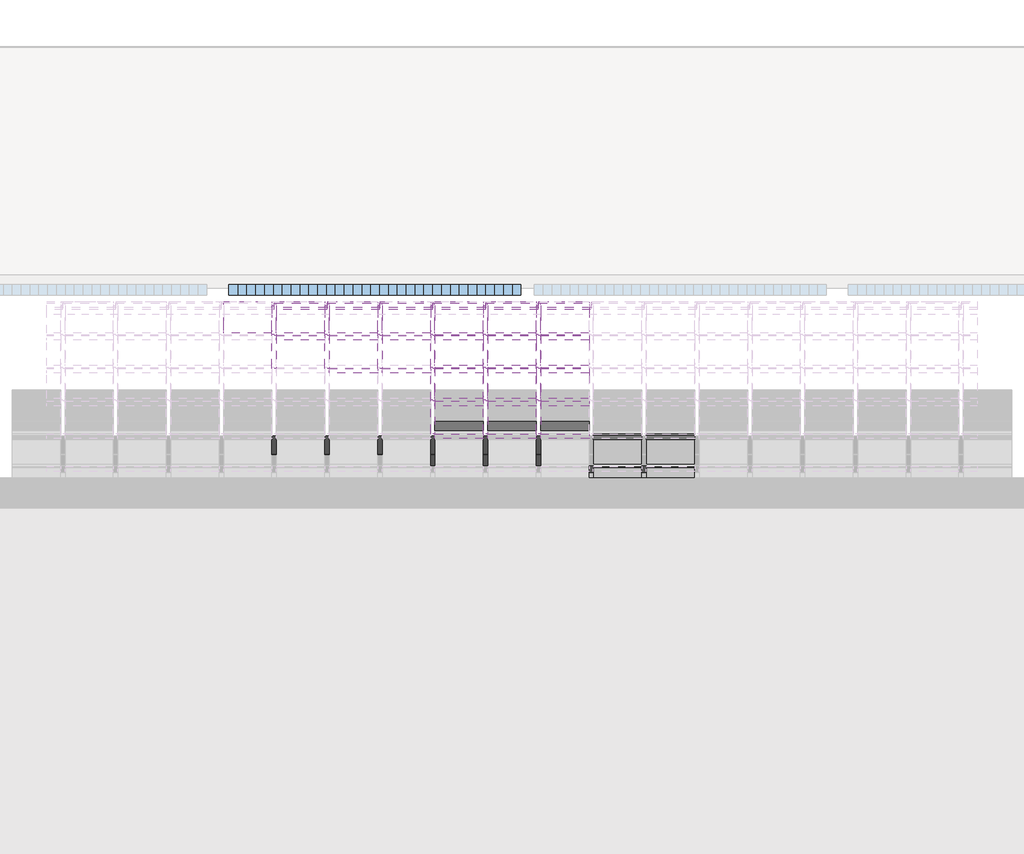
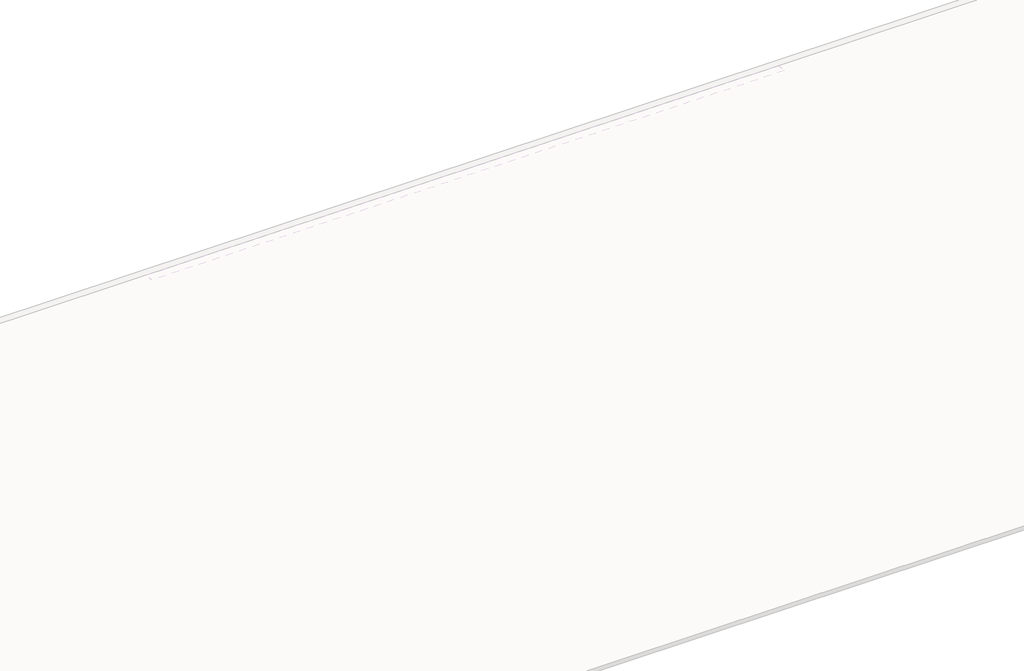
# One storey, part 39 of 57: 92 members, 29 plates, 1 window.
"""IFC4 building model written with IfcOpenShell, lengths in millimetres."""

from ifc_helpers import new_model, si_unit, origin, place, context, project, spatial, transform, mapped, element, save
from components import rectangular_mullion_4c4137b9, rectangular_mullion_59984080, rectangular_mullion_3ac3718c, rectangular_mullion_caibro_df98490b, rectangular_mullion_caibro_e4384bba, rectangular_mullion_caibro_0993a3cf, rectangular_mullion_caibro_650698a1, empty_system_panel_vazio_178faf58, window_60306791, window_6c828501, window_02d14e1e

model = new_model("IFC4")

# Units and contexts
model_context = context("Model", 3, world=origin())
ifc_project = project(units=[si_unit("LENGTHUNIT", "METRE", prefix="MILLI")], contexts=[model_context])

# Site, building, storey
site = spatial("IfcSite", under=ifc_project)
building = spatial("IfcBuilding", under=site)
storey = spatial("IfcBuildingStorey", under=building, Name="Nível 2", Elevation=4100.0)

# Members
placement = place(None, origin())
rectangular_mullion_shape = rectangular_mullion_4c4137b9(model_context)
element("IfcMember", 1, ObjectType="Rectangular Mullion : Ripa", at=placement, inside=storey, context=model_context, shape_type="MappedRepresentation", body=[
    mapped(rectangular_mullion_shape, transform((24439.7613963, 15566.1284427, 5819.8877114), x_axis=(0.0, 0.9578262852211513, 0.2873478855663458), y_axis=(0.0, 0.2873478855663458, -0.9578262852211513), z_axis=(-1.0, 0.0, 0.0))),
])
element("IfcMember", 2, ObjectType="Rectangular Mullion : Ripa", at=placement, inside=storey, context=model_context, shape_type="MappedRepresentation", body=[
    mapped(rectangular_mullion_shape, transform((25036.8161527, 15566.1284427, 5819.8877114), x_axis=(0.0, 0.9578262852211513, 0.2873478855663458), y_axis=(0.0, 0.2873478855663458, -0.9578262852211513), z_axis=(-1.0, 0.0, 0.0))),
])
element("IfcMember", 3, ObjectType="Rectangular Mullion : Ripa", at=placement, inside=storey, context=model_context, shape_type="MappedRepresentation", body=[
    mapped(rectangular_mullion_shape, transform((25633.8709092, 15566.1284427, 5819.8877114), x_axis=(0.0, 0.9578262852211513, 0.2873478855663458), y_axis=(0.0, 0.2873478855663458, -0.9578262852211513), z_axis=(-1.0, 0.0, 0.0))),
])
element("IfcMember", 4, ObjectType="Rectangular Mullion : Ripa", at=placement, inside=storey, context=model_context, shape_type="MappedRepresentation", body=[
    mapped(rectangular_mullion_shape, transform((26230.9256656, 15566.1284427, 5819.8877114), x_axis=(0.0, 0.9578262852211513, 0.2873478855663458), y_axis=(0.0, 0.2873478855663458, -0.9578262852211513), z_axis=(-1.0, 0.0, 0.0))),
])
element("IfcMember", 5, ObjectType="Rectangular Mullion : Ripa", at=placement, inside=storey, context=model_context, shape_type="MappedRepresentation", body=[
    mapped(rectangular_mullion_shape, transform((26827.980422, 15566.1284427, 5819.8877114), x_axis=(0.0, 0.9578262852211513, 0.2873478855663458), y_axis=(0.0, 0.2873478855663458, -0.9578262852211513), z_axis=(-1.0, 0.0, 0.0))),
])
element("IfcMember", 6, ObjectType="Rectangular Mullion : Ripa", at=placement, inside=storey, context=model_context, shape_type="MappedRepresentation", body=[
    mapped(rectangular_mullion_shape, transform((27425.0351784, 15566.1284427, 5819.8877114), x_axis=(0.0, 0.9578262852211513, 0.2873478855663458), y_axis=(0.0, 0.2873478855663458, -0.9578262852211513), z_axis=(-1.0, 0.0, 0.0))),
])
rectangular_mullion_2_shape = rectangular_mullion_59984080(model_context)
element("IfcMember", 7, ObjectType="Rectangular Mullion : Ripa", at=placement, inside=storey, context=model_context, shape_type="MappedRepresentation", body=[
    mapped(rectangular_mullion_2_shape, transform((28047.0899349, 12234.5331147, 4820.409113), x_axis=(0.0, 0.9578262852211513, 0.2873478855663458), y_axis=(0.0, 0.2873478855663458, -0.9578262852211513), z_axis=(-1.0, 0.0, 0.0))),
])
element("IfcMember", 8, ObjectType="Rectangular Mullion : Ripa", at=placement, inside=storey, context=model_context, shape_type="MappedRepresentation", body=[
    mapped(rectangular_mullion_2_shape, transform((28644.1446913, 12234.5331147, 4820.409113), x_axis=(0.0, 0.9578262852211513, 0.2873478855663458), y_axis=(0.0, 0.2873478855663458, -0.9578262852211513), z_axis=(-1.0, 0.0, 0.0))),
])
element("IfcMember", 9, ObjectType="Rectangular Mullion : Ripa", at=placement, inside=storey, context=model_context, shape_type="MappedRepresentation", body=[
    mapped(rectangular_mullion_2_shape, transform((29241.1994477, 12234.5331147, 4820.409113), x_axis=(0.0, 0.9578262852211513, 0.2873478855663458), y_axis=(0.0, 0.2873478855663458, -0.9578262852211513), z_axis=(-1.0, 0.0, 0.0))),
])
element("IfcMember", 10, ObjectType="Rectangular Mullion : Ripa", at=placement, inside=storey, context=model_context, shape_type="MappedRepresentation", body=[
    mapped(rectangular_mullion_2_shape, transform((29838.2542041, 12234.5331147, 4820.409113), x_axis=(0.0, 0.9578262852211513, 0.2873478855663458), y_axis=(0.0, 0.2873478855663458, -0.9578262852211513), z_axis=(-1.0, 0.0, 0.0))),
])
element("IfcMember", 11, ObjectType="Rectangular Mullion : Ripa", at=placement, inside=storey, context=model_context, shape_type="MappedRepresentation", body=[
    mapped(rectangular_mullion_2_shape, transform((28047.0899349, 12604.7103734, 4931.4622906), x_axis=(0.0, 0.9578262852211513, 0.2873478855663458), y_axis=(0.0, 0.2873478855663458, -0.9578262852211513), z_axis=(-1.0, 0.0, 0.0))),
])
element("IfcMember", 12, ObjectType="Rectangular Mullion : Ripa", at=placement, inside=storey, context=model_context, shape_type="MappedRepresentation", body=[
    mapped(rectangular_mullion_2_shape, transform((28644.1446913, 12604.7103734, 4931.4622906), x_axis=(0.0, 0.9578262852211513, 0.2873478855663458), y_axis=(0.0, 0.2873478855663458, -0.9578262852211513), z_axis=(-1.0, 0.0, 0.0))),
])
element("IfcMember", 13, ObjectType="Rectangular Mullion : Ripa", at=placement, inside=storey, context=model_context, shape_type="MappedRepresentation", body=[
    mapped(rectangular_mullion_2_shape, transform((29241.1994477, 12604.7103734, 4931.4622906), x_axis=(0.0, 0.9578262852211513, 0.2873478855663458), y_axis=(0.0, 0.2873478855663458, -0.9578262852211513), z_axis=(-1.0, 0.0, 0.0))),
])
element("IfcMember", 14, ObjectType="Rectangular Mullion : Ripa", at=placement, inside=storey, context=model_context, shape_type="MappedRepresentation", body=[
    mapped(rectangular_mullion_2_shape, transform((29838.2542041, 12604.7103734, 4931.4622906), x_axis=(0.0, 0.9578262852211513, 0.2873478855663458), y_axis=(0.0, 0.2873478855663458, -0.9578262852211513), z_axis=(-1.0, 0.0, 0.0))),
])
element("IfcMember", 15, ObjectType="Rectangular Mullion : Ripa", at=placement, inside=storey, context=model_context, shape_type="MappedRepresentation", body=[
    mapped(rectangular_mullion_2_shape, transform((28047.0899349, 12974.8876321, 5042.5154682), x_axis=(0.0, 0.9578262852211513, 0.2873478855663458), y_axis=(0.0, 0.2873478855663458, -0.9578262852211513), z_axis=(-1.0, 0.0, 0.0))),
])
element("IfcMember", 16, ObjectType="Rectangular Mullion : Ripa", at=placement, inside=storey, context=model_context, shape_type="MappedRepresentation", body=[
    mapped(rectangular_mullion_2_shape, transform((28644.1446913, 12974.8876321, 5042.5154682), x_axis=(0.0, 0.9578262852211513, 0.2873478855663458), y_axis=(0.0, 0.2873478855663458, -0.9578262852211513), z_axis=(-1.0, 0.0, 0.0))),
])
element("IfcMember", 17, ObjectType="Rectangular Mullion : Ripa", at=placement, inside=storey, context=model_context, shape_type="MappedRepresentation", body=[
    mapped(rectangular_mullion_2_shape, transform((29241.1994477, 12974.8876321, 5042.5154682), x_axis=(0.0, 0.9578262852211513, 0.2873478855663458), y_axis=(0.0, 0.2873478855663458, -0.9578262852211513), z_axis=(-1.0, 0.0, 0.0))),
])
element("IfcMember", 18, ObjectType="Rectangular Mullion : Ripa", at=placement, inside=storey, context=model_context, shape_type="MappedRepresentation", body=[
    mapped(rectangular_mullion_2_shape, transform((29838.2542041, 12974.8876321, 5042.5154682), x_axis=(0.0, 0.9578262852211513, 0.2873478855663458), y_axis=(0.0, 0.2873478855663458, -0.9578262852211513), z_axis=(-1.0, 0.0, 0.0))),
])
element("IfcMember", 19, ObjectType="Rectangular Mullion : Ripa", at=placement, inside=storey, context=model_context, shape_type="MappedRepresentation", body=[
    mapped(rectangular_mullion_2_shape, transform((28047.0899349, 13345.0648907, 5153.5686458), x_axis=(0.0, 0.9578262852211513, 0.2873478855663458), y_axis=(0.0, 0.2873478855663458, -0.9578262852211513), z_axis=(-1.0, 0.0, 0.0))),
])
element("IfcMember", 20, ObjectType="Rectangular Mullion : Ripa", at=placement, inside=storey, context=model_context, shape_type="MappedRepresentation", body=[
    mapped(rectangular_mullion_2_shape, transform((28644.1446913, 13345.0648907, 5153.5686458), x_axis=(0.0, 0.9578262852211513, 0.2873478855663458), y_axis=(0.0, 0.2873478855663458, -0.9578262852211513), z_axis=(-1.0, 0.0, 0.0))),
])
element("IfcMember", 21, ObjectType="Rectangular Mullion : Ripa", at=placement, inside=storey, context=model_context, shape_type="MappedRepresentation", body=[
    mapped(rectangular_mullion_2_shape, transform((26255.9256656, 14085.4194081, 5375.675001), x_axis=(0.0, 0.9578262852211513, 0.2873478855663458), y_axis=(0.0, 0.2873478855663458, -0.9578262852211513), z_axis=(-1.0, 0.0, 0.0))),
])
element("IfcMember", 22, ObjectType="Rectangular Mullion : Ripa", at=placement, inside=storey, context=model_context, shape_type="MappedRepresentation", body=[
    mapped(rectangular_mullion_2_shape, transform((26852.980422, 14085.4194081, 5375.675001), x_axis=(0.0, 0.9578262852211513, 0.2873478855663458), y_axis=(0.0, 0.2873478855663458, -0.9578262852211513), z_axis=(-1.0, 0.0, 0.0))),
])
element("IfcMember", 23, ObjectType="Rectangular Mullion : Ripa", at=placement, inside=storey, context=model_context, shape_type="MappedRepresentation", body=[
    mapped(rectangular_mullion_2_shape, transform((27450.0351784, 14085.4194081, 5375.675001), x_axis=(0.0, 0.9578262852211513, 0.2873478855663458), y_axis=(0.0, 0.2873478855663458, -0.9578262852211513), z_axis=(-1.0, 0.0, 0.0))),
])
element("IfcMember", 24, ObjectType="Rectangular Mullion : Ripa", at=placement, inside=storey, context=model_context, shape_type="MappedRepresentation", body=[
    mapped(rectangular_mullion_2_shape, transform((26255.9256656, 14455.5966667, 5486.7281786), x_axis=(0.0, 0.9578262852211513, 0.2873478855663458), y_axis=(0.0, 0.2873478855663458, -0.9578262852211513), z_axis=(-1.0, 0.0, 0.0))),
])
element("IfcMember", 25, ObjectType="Rectangular Mullion : Ripa", at=placement, inside=storey, context=model_context, shape_type="MappedRepresentation", body=[
    mapped(rectangular_mullion_2_shape, transform((26852.980422, 14455.5966667, 5486.7281786), x_axis=(0.0, 0.9578262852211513, 0.2873478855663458), y_axis=(0.0, 0.2873478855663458, -0.9578262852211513), z_axis=(-1.0, 0.0, 0.0))),
])
element("IfcMember", 26, ObjectType="Rectangular Mullion : Ripa", at=placement, inside=storey, context=model_context, shape_type="MappedRepresentation", body=[
    mapped(rectangular_mullion_2_shape, transform((27450.0351784, 14455.5966667, 5486.7281786), x_axis=(0.0, 0.9578262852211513, 0.2873478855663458), y_axis=(0.0, 0.2873478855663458, -0.9578262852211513), z_axis=(-1.0, 0.0, 0.0))),
])
element("IfcMember", 27, ObjectType="Rectangular Mullion : Ripa", at=placement, inside=storey, context=model_context, shape_type="MappedRepresentation", body=[
    mapped(rectangular_mullion_2_shape, transform((25061.8161527, 14825.7739254, 5597.7813562), x_axis=(0.0, 0.9578262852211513, 0.2873478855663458), y_axis=(0.0, 0.2873478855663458, -0.9578262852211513), z_axis=(-1.0, 0.0, 0.0))),
])
element("IfcMember", 28, ObjectType="Rectangular Mullion : Ripa", at=placement, inside=storey, context=model_context, shape_type="MappedRepresentation", body=[
    mapped(rectangular_mullion_2_shape, transform((25658.8709092, 14825.7739254, 5597.7813562), x_axis=(0.0, 0.9578262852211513, 0.2873478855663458), y_axis=(0.0, 0.2873478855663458, -0.9578262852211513), z_axis=(-1.0, 0.0, 0.0))),
])
element("IfcMember", 29, ObjectType="Rectangular Mullion : Ripa", at=placement, inside=storey, context=model_context, shape_type="MappedRepresentation", body=[
    mapped(rectangular_mullion_2_shape, transform((26255.9256656, 14825.7739254, 5597.7813562), x_axis=(0.0, 0.9578262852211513, 0.2873478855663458), y_axis=(0.0, 0.2873478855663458, -0.9578262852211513), z_axis=(-1.0, 0.0, 0.0))),
])
element("IfcMember", 30, ObjectType="Rectangular Mullion : Ripa", at=placement, inside=storey, context=model_context, shape_type="MappedRepresentation", body=[
    mapped(rectangular_mullion_2_shape, transform((26852.980422, 14825.7739254, 5597.7813562), x_axis=(0.0, 0.9578262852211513, 0.2873478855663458), y_axis=(0.0, 0.2873478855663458, -0.9578262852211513), z_axis=(-1.0, 0.0, 0.0))),
])
element("IfcMember", 31, ObjectType="Rectangular Mullion : Ripa", at=placement, inside=storey, context=model_context, shape_type="MappedRepresentation", body=[
    mapped(rectangular_mullion_2_shape, transform((27450.0351784, 14825.7739254, 5597.7813562), x_axis=(0.0, 0.9578262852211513, 0.2873478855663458), y_axis=(0.0, 0.2873478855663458, -0.9578262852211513), z_axis=(-1.0, 0.0, 0.0))),
])
element("IfcMember", 32, ObjectType="Rectangular Mullion : Ripa", at=placement, inside=storey, context=model_context, shape_type="MappedRepresentation", body=[
    mapped(rectangular_mullion_2_shape, transform((24464.7613963, 15195.9511841, 5708.8345338), x_axis=(0.0, 0.9578262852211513, 0.2873478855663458), y_axis=(0.0, 0.2873478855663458, -0.9578262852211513), z_axis=(-1.0, 0.0, 0.0))),
])
element("IfcMember", 33, ObjectType="Rectangular Mullion : Ripa", at=placement, inside=storey, context=model_context, shape_type="MappedRepresentation", body=[
    mapped(rectangular_mullion_2_shape, transform((25061.8161527, 15195.9511841, 5708.8345338), x_axis=(0.0, 0.9578262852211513, 0.2873478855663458), y_axis=(0.0, 0.2873478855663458, -0.9578262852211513), z_axis=(-1.0, 0.0, 0.0))),
])
element("IfcMember", 34, ObjectType="Rectangular Mullion : Ripa", at=placement, inside=storey, context=model_context, shape_type="MappedRepresentation", body=[
    mapped(rectangular_mullion_2_shape, transform((25658.8709092, 15195.9511841, 5708.8345338), x_axis=(0.0, 0.9578262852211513, 0.2873478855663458), y_axis=(0.0, 0.2873478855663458, -0.9578262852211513), z_axis=(-1.0, 0.0, 0.0))),
])
element("IfcMember", 35, ObjectType="Rectangular Mullion : Ripa", at=placement, inside=storey, context=model_context, shape_type="MappedRepresentation", body=[
    mapped(rectangular_mullion_2_shape, transform((26255.9256656, 15195.9511841, 5708.8345338), x_axis=(0.0, 0.9578262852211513, 0.2873478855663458), y_axis=(0.0, 0.2873478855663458, -0.9578262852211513), z_axis=(-1.0, 0.0, 0.0))),
])
element("IfcMember", 36, ObjectType="Rectangular Mullion : Ripa", at=placement, inside=storey, context=model_context, shape_type="MappedRepresentation", body=[
    mapped(rectangular_mullion_2_shape, transform((26852.980422, 15195.9511841, 5708.8345338), x_axis=(0.0, 0.9578262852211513, 0.2873478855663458), y_axis=(0.0, 0.2873478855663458, -0.9578262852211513), z_axis=(-1.0, 0.0, 0.0))),
])
element("IfcMember", 37, ObjectType="Rectangular Mullion : Ripa", at=placement, inside=storey, context=model_context, shape_type="MappedRepresentation", body=[
    mapped(rectangular_mullion_2_shape, transform((27450.0351784, 15195.9511841, 5708.8345338), x_axis=(0.0, 0.9578262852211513, 0.2873478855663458), y_axis=(0.0, 0.2873478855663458, -0.9578262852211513), z_axis=(-1.0, 0.0, 0.0))),
])
rectangular_mullion_3_shape = rectangular_mullion_3ac3718c(model_context)
element("IfcMember", 38, ObjectType="Rectangular Mullion : Terça", at=placement, inside=storey, context=model_context, shape_type="MappedRepresentation", body=[
    mapped(rectangular_mullion_3_shape, transform((24439.7613963, 15566.1284427, 5757.2458723), x_axis=(0.0, 0.9578262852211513, 0.2873478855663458), y_axis=(0.0, 0.2873478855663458, -0.9578262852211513), z_axis=(-1.0, 0.0, 0.0))),
])
element("IfcMember", 39, ObjectType="Rectangular Mullion : Terça", at=placement, inside=storey, context=model_context, shape_type="MappedRepresentation", body=[
    mapped(rectangular_mullion_3_shape, transform((25036.8161527, 15566.1284427, 5757.2458723), x_axis=(0.0, 0.9578262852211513, 0.2873478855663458), y_axis=(0.0, 0.2873478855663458, -0.9578262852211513), z_axis=(-1.0, 0.0, 0.0))),
])
element("IfcMember", 40, ObjectType="Rectangular Mullion : Terça", at=placement, inside=storey, context=model_context, shape_type="MappedRepresentation", body=[
    mapped(rectangular_mullion_3_shape, transform((25633.8709092, 15566.1284427, 5757.2458723), x_axis=(0.0, 0.9578262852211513, 0.2873478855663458), y_axis=(0.0, 0.2873478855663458, -0.9578262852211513), z_axis=(-1.0, 0.0, 0.0))),
])
element("IfcMember", 41, ObjectType="Rectangular Mullion : Terça", at=placement, inside=storey, context=model_context, shape_type="MappedRepresentation", body=[
    mapped(rectangular_mullion_3_shape, transform((26230.9256656, 15566.1284427, 5757.2458723), x_axis=(0.0, 0.9578262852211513, 0.2873478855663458), y_axis=(0.0, 0.2873478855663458, -0.9578262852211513), z_axis=(-1.0, 0.0, 0.0))),
])
element("IfcMember", 42, ObjectType="Rectangular Mullion : Terça", at=placement, inside=storey, context=model_context, shape_type="MappedRepresentation", body=[
    mapped(rectangular_mullion_3_shape, transform((26827.980422, 15566.1284427, 5757.2458723), x_axis=(0.0, 0.9578262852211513, 0.2873478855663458), y_axis=(0.0, 0.2873478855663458, -0.9578262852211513), z_axis=(-1.0, 0.0, 0.0))),
])
element("IfcMember", 43, ObjectType="Rectangular Mullion : Terça", at=placement, inside=storey, context=model_context, shape_type="MappedRepresentation", body=[
    mapped(rectangular_mullion_3_shape, transform((27425.0351784, 15566.1284427, 5757.2458723), x_axis=(0.0, 0.9578262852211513, 0.2873478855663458), y_axis=(0.0, 0.2873478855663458, -0.9578262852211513), z_axis=(-1.0, 0.0, 0.0))),
])
rectangular_mullion_caibro_shape = rectangular_mullion_caibro_df98490b(model_context)
element("IfcMember", 44, ObjectType="Rectangular Mullion : Caibro", at=placement, inside=storey, context=model_context, shape_type="MappedRepresentation", body=[
    mapped(rectangular_mullion_caibro_shape, transform((24439.7613963, 15518.2371285, 5805.5203171), x_axis=(1.0, 0.0, 0.0), y_axis=(0.0, 0.28734788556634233, -0.9578262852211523), z_axis=(0.0, 0.9578262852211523, 0.28734788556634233))),
])
element("IfcMember", 45, ObjectType="Rectangular Mullion : Caibro", at=placement, inside=storey, context=model_context, shape_type="MappedRepresentation", body=[
    mapped(rectangular_mullion_caibro_shape, transform((25036.8161527, 15518.2371285, 5805.5203171), x_axis=(1.0, 0.0, 0.0), y_axis=(0.0, 0.28734788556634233, -0.9578262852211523), z_axis=(0.0, 0.9578262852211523, 0.28734788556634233))),
])
element("IfcMember", 46, ObjectType="Rectangular Mullion : Caibro", at=placement, inside=storey, context=model_context, shape_type="MappedRepresentation", body=[
    mapped(rectangular_mullion_caibro_shape, transform((25633.8709092, 15518.2371285, 5805.5203171), x_axis=(1.0, 0.0, 0.0), y_axis=(0.0, 0.28734788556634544, -0.9578262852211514), z_axis=(0.0, 0.9578262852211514, 0.28734788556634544))),
])
element("IfcMember", 47, ObjectType="Rectangular Mullion : Caibro", at=placement, inside=storey, context=model_context, shape_type="MappedRepresentation", body=[
    mapped(rectangular_mullion_caibro_shape, transform((26230.9256656, 15518.2371285, 5805.5203171), x_axis=(1.0, 0.0, 0.0), y_axis=(0.0, 0.28734788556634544, -0.9578262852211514), z_axis=(0.0, 0.9578262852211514, 0.28734788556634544))),
])
element("IfcMember", 48, ObjectType="Rectangular Mullion : Caibro", at=placement, inside=storey, context=model_context, shape_type="MappedRepresentation", body=[
    mapped(rectangular_mullion_caibro_shape, transform((26827.980422, 15518.2371285, 5805.5203171), x_axis=(1.0, 0.0, 0.0), y_axis=(0.0, 0.28734788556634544, -0.9578262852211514), z_axis=(0.0, 0.9578262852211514, 0.28734788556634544))),
])
element("IfcMember", 49, ObjectType="Rectangular Mullion : Caibro", at=placement, inside=storey, context=model_context, shape_type="MappedRepresentation", body=[
    mapped(rectangular_mullion_caibro_shape, transform((27425.0351784, 15518.2371285, 5805.5203171), x_axis=(1.0, 0.0, 0.0), y_axis=(0.0, 0.28734788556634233, -0.9578262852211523), z_axis=(0.0, 0.9578262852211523, 0.28734788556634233))),
])
rectangular_mullion_caibro_2_shape = rectangular_mullion_caibro_e4384bba(model_context)
element("IfcMember", 50, ObjectType="Rectangular Mullion : Caibro", at=placement, inside=storey, context=model_context, shape_type="MappedRepresentation", body=[
    mapped(rectangular_mullion_caibro_2_shape, transform((24439.7613963, 15195.9511841, 5708.8345338), x_axis=(1.0, 0.0, 0.0), y_axis=(0.0, 0.2873478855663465, -0.9578262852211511), z_axis=(0.0, 0.957826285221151, 0.28734788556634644))),
])
element("IfcMember", 51, ObjectType="Rectangular Mullion : Caibro", at=placement, inside=storey, context=model_context, shape_type="MappedRepresentation", body=[
    mapped(rectangular_mullion_caibro_2_shape, transform((25036.8161527, 15195.9511841, 5708.8345338), x_axis=(1.0, 0.0, 0.0), y_axis=(0.0, 0.2873478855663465, -0.9578262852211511), z_axis=(0.0, 0.957826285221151, 0.28734788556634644))),
])
element("IfcMember", 52, ObjectType="Rectangular Mullion : Caibro", at=placement, inside=storey, context=model_context, shape_type="MappedRepresentation", body=[
    mapped(rectangular_mullion_caibro_2_shape, transform((25633.8709092, 15195.9511841, 5708.8345338), x_axis=(1.0, 0.0, 0.0), y_axis=(0.0, 0.28734788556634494, -0.9578262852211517), z_axis=(0.0, 0.9578262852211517, 0.28734788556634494))),
])
element("IfcMember", 53, ObjectType="Rectangular Mullion : Caibro", at=placement, inside=storey, context=model_context, shape_type="MappedRepresentation", body=[
    mapped(rectangular_mullion_caibro_2_shape, transform((26230.9256656, 14085.4194081, 5375.675001), x_axis=(1.0, 0.0, 0.0), y_axis=(0.0, 0.28734788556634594, -0.9578262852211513), z_axis=(0.0, 0.9578262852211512, 0.2873478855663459))),
])
element("IfcMember", 54, ObjectType="Rectangular Mullion : Caibro", at=placement, inside=storey, context=model_context, shape_type="MappedRepresentation", body=[
    mapped(rectangular_mullion_caibro_2_shape, transform((26230.9256656, 14455.5966667, 5486.7281786), x_axis=(1.0, 0.0, 0.0), y_axis=(0.0, 0.2873478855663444, -0.9578262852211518), z_axis=(0.0, 0.9578262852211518, 0.2873478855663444))),
])
element("IfcMember", 55, ObjectType="Rectangular Mullion : Caibro", at=placement, inside=storey, context=model_context, shape_type="MappedRepresentation", body=[
    mapped(rectangular_mullion_caibro_2_shape, transform((26230.9256656, 14825.7739254, 5597.7813562), x_axis=(1.0, 0.0, 0.0), y_axis=(0.0, 0.287347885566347, -0.9578262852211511), z_axis=(0.0, 0.9578262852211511, 0.287347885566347))),
])
element("IfcMember", 56, ObjectType="Rectangular Mullion : Caibro", at=placement, inside=storey, context=model_context, shape_type="MappedRepresentation", body=[
    mapped(rectangular_mullion_caibro_2_shape, transform((26230.9256656, 15195.9511841, 5708.8345338), x_axis=(1.0, 0.0, 0.0), y_axis=(0.0, 0.28734788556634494, -0.9578262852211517), z_axis=(0.0, 0.9578262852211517, 0.28734788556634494))),
])
element("IfcMember", 57, ObjectType="Rectangular Mullion : Caibro", at=placement, inside=storey, context=model_context, shape_type="MappedRepresentation", body=[
    mapped(rectangular_mullion_caibro_2_shape, transform((26827.980422, 14085.4194081, 5375.675001), x_axis=(1.0, 0.0, 0.0), y_axis=(0.0, 0.28734788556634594, -0.9578262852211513), z_axis=(0.0, 0.9578262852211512, 0.2873478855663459))),
])
element("IfcMember", 58, ObjectType="Rectangular Mullion : Caibro", at=placement, inside=storey, context=model_context, shape_type="MappedRepresentation", body=[
    mapped(rectangular_mullion_caibro_2_shape, transform((26827.980422, 14455.5966667, 5486.7281786), x_axis=(1.0, 0.0, 0.0), y_axis=(0.0, 0.2873478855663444, -0.9578262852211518), z_axis=(0.0, 0.9578262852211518, 0.2873478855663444))),
])
element("IfcMember", 59, ObjectType="Rectangular Mullion : Caibro", at=placement, inside=storey, context=model_context, shape_type="MappedRepresentation", body=[
    mapped(rectangular_mullion_caibro_2_shape, transform((26827.980422, 14825.7739254, 5597.7813562), x_axis=(1.0, 0.0, 0.0), y_axis=(0.0, 0.287347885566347, -0.9578262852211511), z_axis=(0.0, 0.9578262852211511, 0.287347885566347))),
])
element("IfcMember", 60, ObjectType="Rectangular Mullion : Caibro", at=placement, inside=storey, context=model_context, shape_type="MappedRepresentation", body=[
    mapped(rectangular_mullion_caibro_2_shape, transform((26827.980422, 15195.9511841, 5708.8345338), x_axis=(1.0, 0.0, 0.0), y_axis=(0.0, 0.28734788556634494, -0.9578262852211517), z_axis=(0.0, 0.9578262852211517, 0.28734788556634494))),
])
element("IfcMember", 61, ObjectType="Rectangular Mullion : Caibro", at=placement, inside=storey, context=model_context, shape_type="MappedRepresentation", body=[
    mapped(rectangular_mullion_caibro_2_shape, transform((27425.0351784, 14085.4194081, 5375.675001), x_axis=(1.0, 0.0, 0.0), y_axis=(0.0, 0.2873478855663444, -0.9578262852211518), z_axis=(0.0, 0.9578262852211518, 0.2873478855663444))),
])
element("IfcMember", 62, ObjectType="Rectangular Mullion : Caibro", at=placement, inside=storey, context=model_context, shape_type="MappedRepresentation", body=[
    mapped(rectangular_mullion_caibro_2_shape, transform((27425.0351784, 14455.5966667, 5486.7281786), x_axis=(1.0, 0.0, 0.0), y_axis=(0.0, 0.28734788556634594, -0.9578262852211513), z_axis=(0.0, 0.9578262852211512, 0.2873478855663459))),
])
element("IfcMember", 63, ObjectType="Rectangular Mullion : Caibro", at=placement, inside=storey, context=model_context, shape_type="MappedRepresentation", body=[
    mapped(rectangular_mullion_caibro_2_shape, transform((27425.0351784, 14825.7739254, 5597.7813562), x_axis=(1.0, 0.0, 0.0), y_axis=(0.0, 0.28734788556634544, -0.9578262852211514), z_axis=(0.0, 0.9578262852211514, 0.28734788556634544))),
])
element("IfcMember", 64, ObjectType="Rectangular Mullion : Caibro", at=placement, inside=storey, context=model_context, shape_type="MappedRepresentation", body=[
    mapped(rectangular_mullion_caibro_2_shape, transform((27425.0351784, 15195.9511841, 5708.8345338), x_axis=(1.0, 0.0, 0.0), y_axis=(0.0, 0.2873478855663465, -0.9578262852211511), z_axis=(0.0, 0.957826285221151, 0.28734788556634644))),
])
element("IfcMember", 65, ObjectType="Rectangular Mullion : Caibro", at=placement, inside=storey, context=model_context, shape_type="MappedRepresentation", body=[
    mapped(rectangular_mullion_caibro_2_shape, transform((28022.0899349, 12234.5331147, 4820.409113), x_axis=(1.0, 0.0, 0.0), y_axis=(0.0, 0.2873478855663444, -0.9578262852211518), z_axis=(0.0, 0.9578262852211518, 0.2873478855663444))),
])
element("IfcMember", 66, ObjectType="Rectangular Mullion : Caibro", at=placement, inside=storey, context=model_context, shape_type="MappedRepresentation", body=[
    mapped(rectangular_mullion_caibro_2_shape, transform((28022.0899349, 12604.7103734, 4931.4622906), x_axis=(1.0, 0.0, 0.0), y_axis=(0.0, 0.2873478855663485, -0.9578262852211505), z_axis=(0.0, 0.9578262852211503, 0.28734788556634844))),
])
element("IfcMember", 67, ObjectType="Rectangular Mullion : Caibro", at=placement, inside=storey, context=model_context, shape_type="MappedRepresentation", body=[
    mapped(rectangular_mullion_caibro_2_shape, transform((28022.0899349, 12974.8876321, 5042.5154682), x_axis=(1.0, 0.0, 0.0), y_axis=(0.0, 0.2873478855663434, -0.957826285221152), z_axis=(0.0, 0.957826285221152, 0.2873478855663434))),
])
element("IfcMember", 68, ObjectType="Rectangular Mullion : Caibro", at=placement, inside=storey, context=model_context, shape_type="MappedRepresentation", body=[
    mapped(rectangular_mullion_caibro_2_shape, transform((28022.0899349, 13345.0648907, 5153.5686458), x_axis=(1.0, 0.0, 0.0), y_axis=(0.0, 0.28734788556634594, -0.9578262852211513), z_axis=(0.0, 0.9578262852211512, 0.2873478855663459))),
])
element("IfcMember", 69, ObjectType="Rectangular Mullion : Caibro", at=placement, inside=storey, context=model_context, shape_type="MappedRepresentation", body=[
    mapped(rectangular_mullion_caibro_2_shape, transform((28022.0899349, 13715.2421494, 5264.6218234), x_axis=(1.0, 0.0, 0.0), y_axis=(0.0, 0.28734788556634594, -0.9578262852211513), z_axis=(0.0, 0.9578262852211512, 0.2873478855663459))),
])
element("IfcMember", 70, ObjectType="Rectangular Mullion : Caibro", at=placement, inside=storey, context=model_context, shape_type="MappedRepresentation", body=[
    mapped(rectangular_mullion_caibro_2_shape, transform((28619.1446913, 12234.5331147, 4820.409113), x_axis=(1.0, 0.0, 0.0), y_axis=(0.0, 0.2873478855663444, -0.9578262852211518), z_axis=(0.0, 0.9578262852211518, 0.2873478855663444))),
])
element("IfcMember", 71, ObjectType="Rectangular Mullion : Caibro", at=placement, inside=storey, context=model_context, shape_type="MappedRepresentation", body=[
    mapped(rectangular_mullion_caibro_2_shape, transform((28619.1446913, 12604.7103734, 4931.4622906), x_axis=(1.0, 0.0, 0.0), y_axis=(0.0, 0.2873478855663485, -0.9578262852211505), z_axis=(0.0, 0.9578262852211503, 0.28734788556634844))),
])
element("IfcMember", 72, ObjectType="Rectangular Mullion : Caibro", at=placement, inside=storey, context=model_context, shape_type="MappedRepresentation", body=[
    mapped(rectangular_mullion_caibro_2_shape, transform((28619.1446913, 12974.8876321, 5042.5154682), x_axis=(1.0, 0.0, 0.0), y_axis=(0.0, 0.2873478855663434, -0.957826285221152), z_axis=(0.0, 0.957826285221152, 0.2873478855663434))),
])
element("IfcMember", 73, ObjectType="Rectangular Mullion : Caibro", at=placement, inside=storey, context=model_context, shape_type="MappedRepresentation", body=[
    mapped(rectangular_mullion_caibro_2_shape, transform((28619.1446913, 13345.0648907, 5153.5686458), x_axis=(1.0, 0.0, 0.0), y_axis=(0.0, 0.28734788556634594, -0.9578262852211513), z_axis=(0.0, 0.9578262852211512, 0.2873478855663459))),
])
element("IfcMember", 74, ObjectType="Rectangular Mullion : Caibro", at=placement, inside=storey, context=model_context, shape_type="MappedRepresentation", body=[
    mapped(rectangular_mullion_caibro_2_shape, transform((28619.1446913, 13715.2421494, 5264.6218234), x_axis=(1.0, 0.0, 0.0), y_axis=(0.0, 0.28734788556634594, -0.9578262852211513), z_axis=(0.0, 0.9578262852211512, 0.2873478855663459))),
])
element("IfcMember", 75, ObjectType="Rectangular Mullion : Caibro", at=placement, inside=storey, context=model_context, shape_type="MappedRepresentation", body=[
    mapped(rectangular_mullion_caibro_2_shape, transform((29216.1994477, 12234.5331147, 4820.409113), x_axis=(1.0, 0.0, 0.0), y_axis=(0.0, 0.2873478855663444, -0.9578262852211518), z_axis=(0.0, 0.9578262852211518, 0.2873478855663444))),
])
element("IfcMember", 76, ObjectType="Rectangular Mullion : Caibro", at=placement, inside=storey, context=model_context, shape_type="MappedRepresentation", body=[
    mapped(rectangular_mullion_caibro_2_shape, transform((29216.1994477, 12604.7103734, 4931.4622906), x_axis=(1.0, 0.0, 0.0), y_axis=(0.0, 0.2873478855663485, -0.9578262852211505), z_axis=(0.0, 0.9578262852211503, 0.28734788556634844))),
])
element("IfcMember", 77, ObjectType="Rectangular Mullion : Caibro", at=placement, inside=storey, context=model_context, shape_type="MappedRepresentation", body=[
    mapped(rectangular_mullion_caibro_2_shape, transform((29216.1994477, 12974.8876321, 5042.5154682), x_axis=(1.0, 0.0, 0.0), y_axis=(0.0, 0.2873478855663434, -0.957826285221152), z_axis=(0.0, 0.957826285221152, 0.2873478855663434))),
])
element("IfcMember", 78, ObjectType="Rectangular Mullion : Caibro", at=placement, inside=storey, context=model_context, shape_type="MappedRepresentation", body=[
    mapped(rectangular_mullion_caibro_2_shape, transform((29813.2542041, 12234.5331147, 4820.409113), x_axis=(1.0, 0.0, 0.0), y_axis=(0.0, 0.2873478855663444, -0.9578262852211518), z_axis=(0.0, 0.9578262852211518, 0.2873478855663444))),
])
element("IfcMember", 79, ObjectType="Rectangular Mullion : Caibro", at=placement, inside=storey, context=model_context, shape_type="MappedRepresentation", body=[
    mapped(rectangular_mullion_caibro_2_shape, transform((29813.2542041, 12604.7103734, 4931.4622906), x_axis=(1.0, 0.0, 0.0), y_axis=(0.0, 0.28734788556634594, -0.9578262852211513), z_axis=(0.0, 0.9578262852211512, 0.2873478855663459))),
])
element("IfcMember", 80, ObjectType="Rectangular Mullion : Caibro", at=placement, inside=storey, context=model_context, shape_type="MappedRepresentation", body=[
    mapped(rectangular_mullion_caibro_2_shape, transform((29813.2542041, 12974.8876321, 5042.5154682), x_axis=(1.0, 0.0, 0.0), y_axis=(0.0, 0.28734788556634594, -0.9578262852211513), z_axis=(0.0, 0.9578262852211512, 0.2873478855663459))),
])
rectangular_mullion_caibro_3_shape = rectangular_mullion_caibro_0993a3cf(model_context)
element("IfcMember", 81, ObjectType="Rectangular Mullion : Caibro", at=placement, inside=storey, context=model_context, shape_type="MappedRepresentation", body=[
    mapped(rectangular_mullion_caibro_3_shape, transform((24439.7613963, 15508.6588656, 5740.0049992), x_axis=(1.0, 0.0, 0.0), y_axis=(0.0, 0.2873478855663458, -0.9578262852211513), z_axis=(0.0, 0.9578262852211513, 0.2873478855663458))),
])
element("IfcMember", 82, ObjectType="Rectangular Mullion : Caibro", at=placement, inside=storey, context=model_context, shape_type="MappedRepresentation", body=[
    mapped(rectangular_mullion_caibro_3_shape, transform((25036.8161527, 15508.6588656, 5740.0049992), x_axis=(1.0, 0.0, 0.0), y_axis=(0.0, 0.2873478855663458, -0.9578262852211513), z_axis=(0.0, 0.9578262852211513, 0.2873478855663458))),
])
element("IfcMember", 83, ObjectType="Rectangular Mullion : Caibro", at=placement, inside=storey, context=model_context, shape_type="MappedRepresentation", body=[
    mapped(rectangular_mullion_caibro_3_shape, transform((25633.8709092, 15508.6588656, 5740.0049992), x_axis=(1.0, 0.0, 0.0), y_axis=(0.0, 0.28734788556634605, -0.9578262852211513), z_axis=(0.0, 0.9578262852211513, 0.28734788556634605))),
])
element("IfcMember", 84, ObjectType="Rectangular Mullion : Caibro", at=placement, inside=storey, context=model_context, shape_type="MappedRepresentation", body=[
    mapped(rectangular_mullion_caibro_3_shape, transform((26230.9256656, 15508.6588656, 5740.0049992), x_axis=(1.0, 0.0, 0.0), y_axis=(0.0, 0.28734788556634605, -0.9578262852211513), z_axis=(0.0, 0.9578262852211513, 0.28734788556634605))),
])
element("IfcMember", 85, ObjectType="Rectangular Mullion : Caibro", at=placement, inside=storey, context=model_context, shape_type="MappedRepresentation", body=[
    mapped(rectangular_mullion_caibro_3_shape, transform((26827.980422, 15508.6588656, 5740.0049992), x_axis=(1.0, 0.0, 0.0), y_axis=(0.0, 0.28734788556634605, -0.9578262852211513), z_axis=(0.0, 0.9578262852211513, 0.28734788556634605))),
])
element("IfcMember", 86, ObjectType="Rectangular Mullion : Caibro", at=placement, inside=storey, context=model_context, shape_type="MappedRepresentation", body=[
    mapped(rectangular_mullion_caibro_3_shape, transform((27425.0351784, 15508.6588656, 5740.0049992), x_axis=(1.0, 0.0, 0.0), y_axis=(0.0, 0.2873478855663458, -0.9578262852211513), z_axis=(0.0, 0.9578262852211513, 0.2873478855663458))),
])
rectangular_mullion_caibro_4_shape = rectangular_mullion_caibro_650698a1(model_context)
element("IfcMember", 87, ObjectType="Rectangular Mullion : Caibro", at=placement, inside=storey, context=model_context, shape_type="MappedRepresentation", body=[
    mapped(rectangular_mullion_caibro_4_shape, transform((27417.8171211, 15772.0058221, 4410.7541277), x_axis=(-1.0, 0.0, 0.0), y_axis=(0.0, -0.2873478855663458, -0.9578262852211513), z_axis=(0.0, -0.9578262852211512, 0.2873478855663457))),
])
element("IfcMember", 88, ObjectType="Rectangular Mullion : Caibro", at=placement, inside=storey, context=model_context, shape_type="MappedRepresentation", body=[
    mapped(rectangular_mullion_caibro_4_shape, transform((26820.4686194, 15772.0058221, 4410.7541277), x_axis=(-1.0, 0.0, 0.0), y_axis=(0.0, -0.2873478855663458, -0.9578262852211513), z_axis=(0.0, -0.9578262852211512, 0.2873478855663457))),
])
element("IfcMember", 89, ObjectType="Rectangular Mullion : Caibro", at=placement, inside=storey, context=model_context, shape_type="MappedRepresentation", body=[
    mapped(rectangular_mullion_caibro_4_shape, transform((26223.1201178, 15772.0058221, 4410.7541277), x_axis=(-1.0, 0.0, 0.0), y_axis=(0.0, -0.2873478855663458, -0.9578262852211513), z_axis=(0.0, -0.9578262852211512, 0.2873478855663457))),
])
element("IfcMember", 90, ObjectType="Rectangular Mullion : Caibro", at=placement, inside=storey, context=model_context, shape_type="MappedRepresentation", body=[
    mapped(rectangular_mullion_caibro_4_shape, transform((25625.7716161, 15772.0058221, 4410.7541277), x_axis=(-1.0, 0.0, 0.0), y_axis=(0.0, -0.2873478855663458, -0.9578262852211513), z_axis=(0.0, -0.9578262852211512, 0.2873478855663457))),
])
element("IfcMember", 91, ObjectType="Rectangular Mullion : Caibro", at=placement, inside=storey, context=model_context, shape_type="MappedRepresentation", body=[
    mapped(rectangular_mullion_caibro_4_shape, transform((25028.4231144, 15772.0058221, 4410.7541277), x_axis=(-1.0, 0.0, 0.0), y_axis=(0.0, -0.2873478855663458, -0.9578262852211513), z_axis=(0.0, -0.9578262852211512, 0.2873478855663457))),
])
element("IfcMember", 92, ObjectType="Rectangular Mullion : Caibro", at=placement, inside=storey, context=model_context, shape_type="MappedRepresentation", body=[
    mapped(rectangular_mullion_caibro_4_shape, transform((24431.0746128, 15772.0058221, 4410.7541277), x_axis=(-1.0, 0.0, 0.0), y_axis=(0.0, -0.2873478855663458, -0.9578262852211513), z_axis=(0.0, -0.9578262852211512, 0.2873478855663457))),
])

# Plates
empty_system_panel_vazio_shape = empty_system_panel_vazio_178faf58(model_context)
element("IfcPlate", 93, ObjectType="Empty System Panel : Vazio", at=placement, inside=storey, context=model_context, shape_type="MappedRepresentation", body=[
    mapped(empty_system_panel_vazio_shape, transform((28320.6173131, 12234.5331147, 4820.409113), x_axis=(1.0, 0.0, 0.0), y_axis=(0.0, 0.2873478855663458, -0.9578262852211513), z_axis=(0.0, 0.9578262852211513, 0.2873478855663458))),
])
element("IfcPlate", 94, ObjectType="Empty System Panel : Vazio", at=placement, inside=storey, context=model_context, shape_type="MappedRepresentation", body=[
    mapped(empty_system_panel_vazio_shape, transform((28917.6720695, 12234.5331147, 4820.409113), x_axis=(1.0, 0.0, 0.0), y_axis=(0.0, 0.2873478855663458, -0.9578262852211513), z_axis=(0.0, 0.9578262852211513, 0.2873478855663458))),
])
element("IfcPlate", 95, ObjectType="Empty System Panel : Vazio", at=placement, inside=storey, context=model_context, shape_type="MappedRepresentation", body=[
    mapped(empty_system_panel_vazio_shape, transform((29514.7268259, 12234.5331147, 4820.409113), x_axis=(1.0, 0.0, 0.0), y_axis=(0.0, 0.2873478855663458, -0.9578262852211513), z_axis=(0.0, 0.9578262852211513, 0.2873478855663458))),
])
element("IfcPlate", 96, ObjectType="Empty System Panel : Vazio", at=placement, inside=storey, context=model_context, shape_type="MappedRepresentation", body=[
    mapped(empty_system_panel_vazio_shape, transform((28320.6173131, 12604.7103734, 4931.4622906), x_axis=(1.0, 0.0, 0.0), y_axis=(0.0, 0.2873478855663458, -0.9578262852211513), z_axis=(0.0, 0.9578262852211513, 0.2873478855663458))),
])
element("IfcPlate", 97, ObjectType="Empty System Panel : Vazio", at=placement, inside=storey, context=model_context, shape_type="MappedRepresentation", body=[
    mapped(empty_system_panel_vazio_shape, transform((28917.6720695, 12604.7103734, 4931.4622906), x_axis=(1.0, 0.0, 0.0), y_axis=(0.0, 0.2873478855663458, -0.9578262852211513), z_axis=(0.0, 0.9578262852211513, 0.2873478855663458))),
])
element("IfcPlate", 98, ObjectType="Empty System Panel : Vazio", at=placement, inside=storey, context=model_context, shape_type="MappedRepresentation", body=[
    mapped(empty_system_panel_vazio_shape, transform((29514.7268259, 12604.7103734, 4931.4622906), x_axis=(1.0, 0.0, 0.0), y_axis=(0.0, 0.2873478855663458, -0.9578262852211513), z_axis=(0.0, 0.9578262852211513, 0.2873478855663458))),
])
element("IfcPlate", 99, ObjectType="Empty System Panel : Vazio", at=placement, inside=storey, context=model_context, shape_type="MappedRepresentation", body=[
    mapped(empty_system_panel_vazio_shape, transform((28320.6173131, 12974.8876321, 5042.5154682), x_axis=(1.0, 0.0, 0.0), y_axis=(0.0, 0.2873478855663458, -0.9578262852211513), z_axis=(0.0, 0.9578262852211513, 0.2873478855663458))),
])
element("IfcPlate", 100, ObjectType="Empty System Panel : Vazio", at=placement, inside=storey, context=model_context, shape_type="MappedRepresentation", body=[
    mapped(empty_system_panel_vazio_shape, transform((28917.6720695, 12974.8876321, 5042.5154682), x_axis=(1.0, 0.0, 0.0), y_axis=(0.0, 0.2873478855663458, -0.9578262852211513), z_axis=(0.0, 0.9578262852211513, 0.2873478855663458))),
])
element("IfcPlate", 101, ObjectType="Empty System Panel : Vazio", at=placement, inside=storey, context=model_context, shape_type="MappedRepresentation", body=[
    mapped(empty_system_panel_vazio_shape, transform((29514.7268259, 12974.8876321, 5042.5154682), x_axis=(1.0, 0.0, 0.0), y_axis=(0.0, 0.2873478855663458, -0.9578262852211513), z_axis=(0.0, 0.9578262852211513, 0.2873478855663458))),
])
element("IfcPlate", 102, ObjectType="Empty System Panel : Vazio", at=placement, inside=storey, context=model_context, shape_type="MappedRepresentation", body=[
    mapped(empty_system_panel_vazio_shape, transform((28320.6173131, 13345.0648907, 5153.5686458), x_axis=(1.0, 0.0, 0.0), y_axis=(0.0, 0.2873478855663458, -0.9578262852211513), z_axis=(0.0, 0.9578262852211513, 0.2873478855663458))),
])
element("IfcPlate", 103, ObjectType="Empty System Panel : Vazio", at=placement, inside=storey, context=model_context, shape_type="MappedRepresentation", body=[
    mapped(empty_system_panel_vazio_shape, transform((28917.6720695, 13345.0648907, 5153.5686458), x_axis=(1.0, 0.0, 0.0), y_axis=(0.0, 0.2873478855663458, -0.9578262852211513), z_axis=(0.0, 0.9578262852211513, 0.2873478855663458))),
])
element("IfcPlate", 104, ObjectType="Empty System Panel : Vazio", at=placement, inside=storey, context=model_context, shape_type="MappedRepresentation", body=[
    mapped(empty_system_panel_vazio_shape, transform((28320.6173131, 13715.2421494, 5264.6218234), x_axis=(1.0, 0.0, 0.0), y_axis=(0.0, 0.2873478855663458, -0.9578262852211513), z_axis=(0.0, 0.9578262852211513, 0.2873478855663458))),
])
element("IfcPlate", 105, ObjectType="Empty System Panel : Vazio", at=placement, inside=storey, context=model_context, shape_type="MappedRepresentation", body=[
    mapped(empty_system_panel_vazio_shape, transform((28917.6720695, 13715.2421494, 5264.6218234), x_axis=(1.0, 0.0, 0.0), y_axis=(0.0, 0.2873478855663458, -0.9578262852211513), z_axis=(0.0, 0.9578262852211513, 0.2873478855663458))),
])
element("IfcPlate", 106, ObjectType="Empty System Panel : Vazio", at=placement, inside=storey, context=model_context, shape_type="MappedRepresentation", body=[
    mapped(empty_system_panel_vazio_shape, transform((26529.4530438, 14085.4194081, 5375.675001), x_axis=(1.0, 0.0, 0.0), y_axis=(0.0, 0.2873478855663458, -0.9578262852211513), z_axis=(0.0, 0.9578262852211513, 0.2873478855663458))),
])
element("IfcPlate", 107, ObjectType="Empty System Panel : Vazio", at=placement, inside=storey, context=model_context, shape_type="MappedRepresentation", body=[
    mapped(empty_system_panel_vazio_shape, transform((27126.5078002, 14085.4194081, 5375.675001), x_axis=(1.0, 0.0, 0.0), y_axis=(0.0, 0.2873478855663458, -0.9578262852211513), z_axis=(0.0, 0.9578262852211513, 0.2873478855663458))),
])
element("IfcPlate", 108, ObjectType="Empty System Panel : Vazio", at=placement, inside=storey, context=model_context, shape_type="MappedRepresentation", body=[
    mapped(empty_system_panel_vazio_shape, transform((27723.5625566, 14085.4194081, 5375.675001), x_axis=(1.0, 0.0, 0.0), y_axis=(0.0, 0.2873478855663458, -0.9578262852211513), z_axis=(0.0, 0.9578262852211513, 0.2873478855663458))),
])
element("IfcPlate", 109, ObjectType="Empty System Panel : Vazio", at=placement, inside=storey, context=model_context, shape_type="MappedRepresentation", body=[
    mapped(empty_system_panel_vazio_shape, transform((26529.4530438, 14455.5966667, 5486.7281786), x_axis=(1.0, 0.0, 0.0), y_axis=(0.0, 0.2873478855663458, -0.9578262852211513), z_axis=(0.0, 0.9578262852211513, 0.2873478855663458))),
])
element("IfcPlate", 110, ObjectType="Empty System Panel : Vazio", at=placement, inside=storey, context=model_context, shape_type="MappedRepresentation", body=[
    mapped(empty_system_panel_vazio_shape, transform((27126.5078002, 14455.5966667, 5486.7281786), x_axis=(1.0, 0.0, 0.0), y_axis=(0.0, 0.2873478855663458, -0.9578262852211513), z_axis=(0.0, 0.9578262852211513, 0.2873478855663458))),
])
element("IfcPlate", 111, ObjectType="Empty System Panel : Vazio", at=placement, inside=storey, context=model_context, shape_type="MappedRepresentation", body=[
    mapped(empty_system_panel_vazio_shape, transform((27723.5625566, 14455.5966667, 5486.7281786), x_axis=(1.0, 0.0, 0.0), y_axis=(0.0, 0.2873478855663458, -0.9578262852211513), z_axis=(0.0, 0.9578262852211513, 0.2873478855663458))),
])
element("IfcPlate", 112, ObjectType="Empty System Panel : Vazio", at=placement, inside=storey, context=model_context, shape_type="MappedRepresentation", body=[
    mapped(empty_system_panel_vazio_shape, transform((26529.4530438, 14825.7739254, 5597.7813562), x_axis=(1.0, 0.0, 0.0), y_axis=(0.0, 0.2873478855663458, -0.9578262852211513), z_axis=(0.0, 0.9578262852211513, 0.2873478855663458))),
])
element("IfcPlate", 113, ObjectType="Empty System Panel : Vazio", at=placement, inside=storey, context=model_context, shape_type="MappedRepresentation", body=[
    mapped(empty_system_panel_vazio_shape, transform((27126.5078002, 14825.7739254, 5597.7813562), x_axis=(1.0, 0.0, 0.0), y_axis=(0.0, 0.2873478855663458, -0.9578262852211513), z_axis=(0.0, 0.9578262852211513, 0.2873478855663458))),
])
element("IfcPlate", 114, ObjectType="Empty System Panel : Vazio", at=placement, inside=storey, context=model_context, shape_type="MappedRepresentation", body=[
    mapped(empty_system_panel_vazio_shape, transform((27723.5625566, 14825.7739254, 5597.7813562), x_axis=(1.0, 0.0, 0.0), y_axis=(0.0, 0.2873478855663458, -0.9578262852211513), z_axis=(0.0, 0.9578262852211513, 0.2873478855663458))),
])
element("IfcPlate", 115, ObjectType="Empty System Panel : Vazio", at=placement, inside=storey, context=model_context, shape_type="MappedRepresentation", body=[
    mapped(empty_system_panel_vazio_shape, transform((24141.2340181, 15195.9511841, 5708.8345338), x_axis=(1.0, 0.0, 0.0), y_axis=(0.0, 0.2873478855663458, -0.9578262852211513), z_axis=(0.0, 0.9578262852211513, 0.2873478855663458))),
])
element("IfcPlate", 116, ObjectType="Empty System Panel : Vazio", at=placement, inside=storey, context=model_context, shape_type="MappedRepresentation", body=[
    mapped(empty_system_panel_vazio_shape, transform((24738.2887745, 15195.9511841, 5708.8345338), x_axis=(1.0, 0.0, 0.0), y_axis=(0.0, 0.2873478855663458, -0.9578262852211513), z_axis=(0.0, 0.9578262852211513, 0.2873478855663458))),
])
element("IfcPlate", 117, ObjectType="Empty System Panel : Vazio", at=placement, inside=storey, context=model_context, shape_type="MappedRepresentation", body=[
    mapped(empty_system_panel_vazio_shape, transform((25335.3435309, 15195.9511841, 5708.8345338), x_axis=(1.0, 0.0, 0.0), y_axis=(0.0, 0.2873478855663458, -0.9578262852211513), z_axis=(0.0, 0.9578262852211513, 0.2873478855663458))),
])
element("IfcPlate", 118, ObjectType="Empty System Panel : Vazio", at=placement, inside=storey, context=model_context, shape_type="MappedRepresentation", body=[
    mapped(empty_system_panel_vazio_shape, transform((25932.3982874, 15195.9511841, 5708.8345338), x_axis=(1.0, 0.0, 0.0), y_axis=(0.0, 0.2873478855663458, -0.9578262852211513), z_axis=(0.0, 0.9578262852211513, 0.2873478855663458))),
])
element("IfcPlate", 119, ObjectType="Empty System Panel : Vazio", at=placement, inside=storey, context=model_context, shape_type="MappedRepresentation", body=[
    mapped(empty_system_panel_vazio_shape, transform((26529.4530438, 15195.9511841, 5708.8345338), x_axis=(1.0, 0.0, 0.0), y_axis=(0.0, 0.2873478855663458, -0.9578262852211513), z_axis=(0.0, 0.9578262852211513, 0.2873478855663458))),
])
element("IfcPlate", 120, ObjectType="Empty System Panel : Vazio", at=placement, inside=storey, context=model_context, shape_type="MappedRepresentation", body=[
    mapped(empty_system_panel_vazio_shape, transform((27126.5078002, 15195.9511841, 5708.8345338), x_axis=(1.0, 0.0, 0.0), y_axis=(0.0, 0.2873478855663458, -0.9578262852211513), z_axis=(0.0, 0.9578262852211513, 0.2873478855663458))),
])
element("IfcPlate", 121, ObjectType="Empty System Panel : Vazio", at=placement, inside=storey, context=model_context, shape_type="MappedRepresentation", body=[
    mapped(empty_system_panel_vazio_shape, transform((27723.5625566, 15195.9511841, 5708.8345338), x_axis=(1.0, 0.0, 0.0), y_axis=(0.0, 0.2873478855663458, -0.9578262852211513), z_axis=(0.0, 0.9578262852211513, 0.2873478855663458))),
])

# Window
window_shape = window_60306791(model_context)
window_2_shape = window_6c828501(model_context)
window_3_shape = window_02d14e1e(model_context)
element("IfcWindow", 122, ObjectType="Concrete_Cobog_Hollow_block_14694 : Cobogó 3,25 x 0,80 m", at=placement, inside=storey, context=model_context, shape_type="MappedRepresentation", body=[
    mapped(window_shape, transform((25576.5302368, 15697.0058221, 3500.0), x_axis=(-1.0, 0.0, 0.0), y_axis=(0.0, -1.0, 0.0), z_axis=(0.0, 0.0, 1.0))),
    mapped(window_2_shape, transform((25576.5302368, 15697.0058221, 3500.0), x_axis=(-1.0, 0.0, 0.0), y_axis=(0.0, -1.0, 0.0), z_axis=(0.0, 0.0, 1.0))),
    mapped(window_3_shape, transform((25576.5302368, 15697.0058221, 3500.0), x_axis=(-1.0, 0.0, 0.0), y_axis=(0.0, -1.0, 0.0), z_axis=(0.0, 0.0, 1.0))),
])

save(model, "model.ifc")
